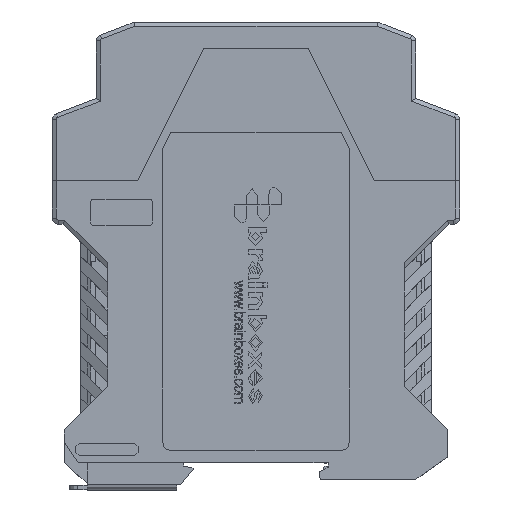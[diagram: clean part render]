
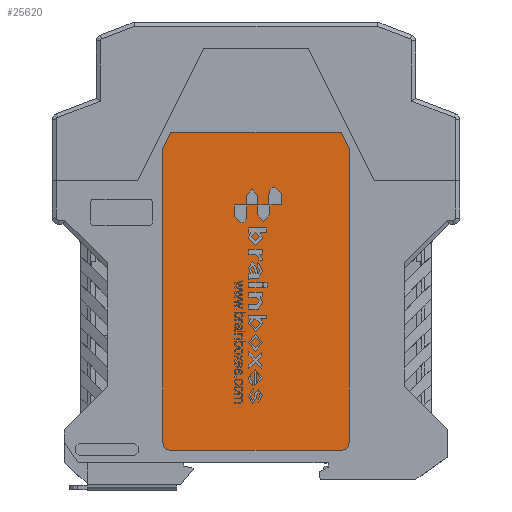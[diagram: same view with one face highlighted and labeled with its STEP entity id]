
A CAD part, top view. The second image highlights one B-rep face of the part: STEP entity #25620.
In plain terms, the highlighted planar face has unit normal (0, 0, 1).
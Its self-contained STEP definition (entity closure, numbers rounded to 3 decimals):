
#25620=ADVANCED_FACE('',(#57331),#57332,.T.);
#57331=FACE_OUTER_BOUND('',#101213,.T.);
#57332=PLANE('',#101214);
#101213=EDGE_LOOP('',(#176068,#176069,#176070,#176071,#176072,#176073,#176074,#176075));
#101214=AXIS2_PLACEMENT_3D('',#176076,#176077,#176078);
#176068=ORIENTED_EDGE('',*,*,#256307,.T.);
#176069=ORIENTED_EDGE('',*,*,#256309,.T.);
#176070=ORIENTED_EDGE('',*,*,#256310,.T.);
#176071=ORIENTED_EDGE('',*,*,#256300,.F.);
#176072=ORIENTED_EDGE('',*,*,#256311,.T.);
#176073=ORIENTED_EDGE('',*,*,#256296,.T.);
#176074=ORIENTED_EDGE('',*,*,#256312,.T.);
#176075=ORIENTED_EDGE('',*,*,#256304,.T.);
#176076=CARTESIAN_POINT('',(6.465,75.955,22.4));
#176077=DIRECTION('',(0.0,0.0,1.0));
#176078=DIRECTION('',(1.0,-0.0,0.0));
#256296=EDGE_CURVE('',#310551,#310553,#310555,.T.);
#256300=EDGE_CURVE('',#310559,#310557,#310561,.T.);
#256304=EDGE_CURVE('',#310563,#310565,#310567,.T.);
#256307=EDGE_CURVE('',#310565,#310569,#310571,.T.);
#256309=EDGE_CURVE('',#310569,#310573,#310574,.T.);
#256310=EDGE_CURVE('',#310573,#310557,#310575,.T.);
#256311=EDGE_CURVE('',#310559,#310551,#310576,.T.);
#256312=EDGE_CURVE('',#310553,#310563,#310577,.T.);
#310551=VERTEX_POINT('',#391534);
#310553=VERTEX_POINT('',#391537);
#310555=LINE('',#391540,#391541);
#310557=VERTEX_POINT('',#391543);
#310559=VERTEX_POINT('',#391546);
#310561=LINE('',#391549,#391550);
#310563=VERTEX_POINT('',#391552);
#310565=VERTEX_POINT('',#391555);
#310567=LINE('',#391558,#391559);
#310569=VERTEX_POINT('',#391561);
#310571=LINE('',#391564,#391565);
#310573=VERTEX_POINT('',#391567);
#310574=LINE('',#391568,#391569);
#310575=CIRCLE('',#391570,2.0);
#310576=CIRCLE('',#391571,2.0);
#310577=LINE('',#391572,#391573);
#391534=CARTESIAN_POINT('',(22.65,5.,22.4));
#391537=CARTESIAN_POINT('',(22.65,76.3,22.4));
#391540=CARTESIAN_POINT('',(22.65,-8.,22.4));
#391541=VECTOR('',#465188,1.0);
#391543=CARTESIAN_POINT('',(-20.65,3.,22.4));
#391546=CARTESIAN_POINT('',(20.65,3.,22.4));
#391549=CARTESIAN_POINT('',(0.,3.,22.4));
#391550=VECTOR('',#465191,1.0);
#391552=CARTESIAN_POINT('',(20.65,80.3,22.4));
#391555=CARTESIAN_POINT('',(-20.65,80.3,22.4));
#391558=CARTESIAN_POINT('',(0.,80.3,22.4));
#391559=VECTOR('',#465194,1.0);
#391561=CARTESIAN_POINT('',(-22.65,76.3,22.4));
#391564=CARTESIAN_POINT('',(-51.84,17.92,22.4));
#391565=VECTOR('',#465196,1.0);
#391567=CARTESIAN_POINT('',(-22.65,5.,22.4));
#391568=CARTESIAN_POINT('',(-22.65,-8.,22.4));
#391569=VECTOR('',#465197,1.0);
#391570=AXIS2_PLACEMENT_3D('',#465198,#465199,#465200);
#391571=AXIS2_PLACEMENT_3D('',#465201,#465202,#465203);
#391572=CARTESIAN_POINT('',(51.84,17.92,22.4));
#391573=VECTOR('',#465204,1.0);
#465188=DIRECTION('',(0.,1.0,0.0));
#465191=DIRECTION('',(-1.0,0.,0.0));
#465194=DIRECTION('',(-1.0,0.0,0.0));
#465196=DIRECTION('',(-0.447,-0.894,0.0));
#465197=DIRECTION('',(0.,-1.0,0.0));
#465198=CARTESIAN_POINT('',(-20.65,5.,22.4));
#465199=DIRECTION('',(0.0,0.0,1.0));
#465200=DIRECTION('',(1.0,0.0,-0.0));
#465201=CARTESIAN_POINT('',(20.65,5.,22.4));
#465202=DIRECTION('',(0.0,0.0,1.0));
#465203=DIRECTION('',(1.0,0.0,-0.0));
#465204=DIRECTION('',(-0.447,0.894,0.0));
